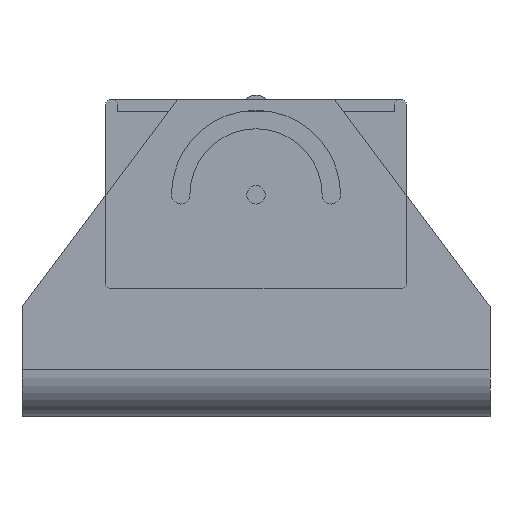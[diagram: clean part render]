
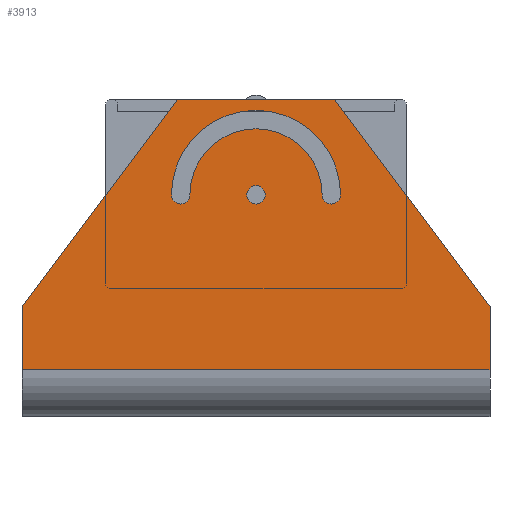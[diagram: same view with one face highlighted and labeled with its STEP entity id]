
A CAD part, left-side view. The second image highlights one B-rep face of the part: STEP entity #3913.
In plain terms, the highlighted planar face has unit normal (-1, 0, 0) as drawn and (0, 0, 1) by its records, which use the part's own axes.
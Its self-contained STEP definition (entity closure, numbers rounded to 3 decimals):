
#187 = EDGE_CURVE ( 'NONE', #621, #622, #2551, .T. ) ;
#559 = VERTEX_POINT ( 'NONE', #1871 ) ;
#569 = VERTEX_POINT ( 'NONE', #1881 ) ;
#570 = VERTEX_POINT ( 'NONE', #1882 ) ;
#572 = VERTEX_POINT ( 'NONE', #1884 ) ;
#573 = VERTEX_POINT ( 'NONE', #1885 ) ;
#621 = VERTEX_POINT ( 'NONE', #1933 ) ;
#622 = VERTEX_POINT ( 'NONE', #1934 ) ;
#786 = EDGE_CURVE ( 'NONE', #1110, #1111, #2766, .T. ) ;
#787 = EDGE_CURVE ( 'NONE', #1111, #1108, #2768, .T. ) ;
#791 = EDGE_CURVE ( 'NONE', #1108, #559, #2775, .T. ) ;
#792 = EDGE_CURVE ( 'NONE', #622, #621, #2777, .T. ) ;
#796 = EDGE_CURVE ( 'NONE', #572, #569, #2785, .T. ) ;
#799 = EDGE_CURVE ( 'NONE', #573, #572, #2791, .T. ) ;
#800 = EDGE_CURVE ( 'NONE', #559, #1109, #2792, .T. ) ;
#802 = EDGE_CURVE ( 'NONE', #1109, #1112, #2796, .T. ) ;
#803 = EDGE_CURVE ( 'NONE', #1112, #1110, #2798, .T. ) ;
#819 = EDGE_CURVE ( 'NONE', #569, #570, #2834, .T. ) ;
#821 = EDGE_CURVE ( 'NONE', #570, #573, #2838, .T. ) ;
#1073 = ORIENTED_EDGE ( 'NONE', *, *, #787, .F. ) ;
#1074 = ORIENTED_EDGE ( 'NONE', *, *, #786, .F. ) ;
#1075 = ORIENTED_EDGE ( 'NONE', *, *, #803, .F. ) ;
#1076 = ORIENTED_EDGE ( 'NONE', *, *, #802, .F. ) ;
#1077 = ORIENTED_EDGE ( 'NONE', *, *, #800, .F. ) ;
#1078 = ORIENTED_EDGE ( 'NONE', *, *, #791, .F. ) ;
#1079 = ORIENTED_EDGE ( 'NONE', *, *, #792, .F. ) ;
#1080 = ORIENTED_EDGE ( 'NONE', *, *, #187, .F. ) ;
#1081 = ORIENTED_EDGE ( 'NONE', *, *, #799, .F. ) ;
#1082 = ORIENTED_EDGE ( 'NONE', *, *, #821, .F. ) ;
#1083 = ORIENTED_EDGE ( 'NONE', *, *, #819, .F. ) ;
#1084 = ORIENTED_EDGE ( 'NONE', *, *, #796, .F. ) ;
#1104 = EDGE_LOOP ( 'NONE', ( #1073, #1074, #1075, #1076, #1077, #1078 ) ) ;
#1105 = EDGE_LOOP ( 'NONE', ( #1079, #1080 ) ) ;
#1106 = EDGE_LOOP ( 'NONE', ( #1081, #1082, #1083, #1084 ) ) ;
#1108 = VERTEX_POINT ( 'NONE', #3060 ) ;
#1109 = VERTEX_POINT ( 'NONE', #3061 ) ;
#1110 = VERTEX_POINT ( 'NONE', #3062 ) ;
#1111 = VERTEX_POINT ( 'NONE', #3063 ) ;
#1112 = VERTEX_POINT ( 'NONE', #3064 ) ;
#1474 = AXIS2_PLACEMENT_3D ( 'NONE', #1624, #1625, #1626 ) ;
#1624 = CARTESIAN_POINT ( 'NONE',  ( 0., 28.956, 0. ) ) ;
#1625 = DIRECTION ( 'NONE',  ( 0., 0., 1. ) ) ;
#1626 = DIRECTION ( 'NONE',  ( 1., 0., 0. ) ) ;
#1871 = CARTESIAN_POINT ( 'NONE',  ( -34.163, 12.7, 0. ) ) ;
#1881 = CARTESIAN_POINT ( 'NONE',  ( 9.652, 28.956, 0. ) ) ;
#1882 = CARTESIAN_POINT ( 'NONE',  ( 12.344, 28.956, 0. ) ) ;
#1884 = CARTESIAN_POINT ( 'NONE',  ( -9.652, 28.956, 0. ) ) ;
#1885 = CARTESIAN_POINT ( 'NONE',  ( -12.344, 28.956, 0. ) ) ;
#1933 = CARTESIAN_POINT ( 'NONE',  ( -1.346, 28.956, 0. ) ) ;
#1934 = CARTESIAN_POINT ( 'NONE',  ( 1.346, 28.956, 0. ) ) ;
#2372 = CARTESIAN_POINT ( 'NONE',  ( 34.163, 0., 0. ) ) ;
#2373 = DIRECTION ( 'NONE',  ( 0., -1., 0. ) ) ;
#2374 = CARTESIAN_POINT ( 'NONE',  ( -34.163, 3.429, 0. ) ) ;
#2375 = DIRECTION ( 'NONE',  ( -1., 0., 0. ) ) ;
#2384 = CARTESIAN_POINT ( 'NONE',  ( -34.163, 0., 0. ) ) ;
#2385 = DIRECTION ( 'NONE',  ( 0., 1., 0. ) ) ;
#2386 = CARTESIAN_POINT ( 'NONE',  ( 0., 28.956, 0. ) ) ;
#2387 = DIRECTION ( 'NONE',  ( 0., 0., 1. ) ) ;
#2388 = DIRECTION ( 'NONE',  ( 1., 0., 0. ) ) ;
#2395 = CARTESIAN_POINT ( 'NONE',  ( 0., 28.956, 0. ) ) ;
#2396 = DIRECTION ( 'NONE',  ( 0., 0., -1. ) ) ;
#2397 = DIRECTION ( 'NONE',  ( 1., 0., 0. ) ) ;
#2402 = CARTESIAN_POINT ( 'NONE',  ( -10.998, 28.956, 0. ) ) ;
#2403 = DIRECTION ( 'NONE',  ( 0., 0., 1. ) ) ;
#2404 = DIRECTION ( 'NONE',  ( 1., 0., 0. ) ) ;
#2405 = CARTESIAN_POINT ( 'NONE',  ( -34.163, 12.7, 0. ) ) ;
#2406 = DIRECTION ( 'NONE',  ( 0.601, 0.799, 0. ) ) ;
#2409 = CARTESIAN_POINT ( 'NONE',  ( -34.163, 42.926, 0. ) ) ;
#2410 = DIRECTION ( 'NONE',  ( 1., 0., 0. ) ) ;
#2411 = CARTESIAN_POINT ( 'NONE',  ( 11.43, 42.926, 0. ) ) ;
#2412 = DIRECTION ( 'NONE',  ( 0.601, -0.799, 0. ) ) ;
#2445 = CARTESIAN_POINT ( 'NONE',  ( 10.998, 28.956, 0. ) ) ;
#2446 = DIRECTION ( 'NONE',  ( 0., 0., 1. ) ) ;
#2447 = DIRECTION ( 'NONE',  ( 1., 0., 0. ) ) ;
#2450 = CARTESIAN_POINT ( 'NONE',  ( 0., 28.956, 0. ) ) ;
#2451 = DIRECTION ( 'NONE',  ( 0., 0., 1. ) ) ;
#2452 = DIRECTION ( 'NONE',  ( 1., 0., 0. ) ) ;
#2551 = CIRCLE ( 'NONE', #1474, 1.346 ) ;
#2760 = AXIS2_PLACEMENT_3D ( 'NONE', #2386, #2387, #2388 ) ;
#2761 = AXIS2_PLACEMENT_3D ( 'NONE', #2395, #2396, #2397 ) ;
#2762 = AXIS2_PLACEMENT_3D ( 'NONE', #2402, #2403, #2404 ) ;
#2766 = LINE ( 'NONE', #2372, #2767 ) ;
#2767 = VECTOR ( 'NONE', #2373, 1000. ) ;
#2768 = LINE ( 'NONE', #2374, #2769 ) ;
#2769 = VECTOR ( 'NONE', #2375, 1000. ) ;
#2775 = LINE ( 'NONE', #2384, #2776 ) ;
#2776 = VECTOR ( 'NONE', #2385, 1000. ) ;
#2777 = CIRCLE ( 'NONE', #2760, 1.346 ) ;
#2785 = CIRCLE ( 'NONE', #2761, 9.652 ) ;
#2791 = CIRCLE ( 'NONE', #2762, 1.346 ) ;
#2792 = LINE ( 'NONE', #2405, #2793 ) ;
#2793 = VECTOR ( 'NONE', #2406, 1000. ) ;
#2796 = LINE ( 'NONE', #2409, #2797 ) ;
#2797 = VECTOR ( 'NONE', #2410, 1000. ) ;
#2798 = LINE ( 'NONE', #2411, #2799 ) ;
#2799 = VECTOR ( 'NONE', #2412, 1000. ) ;
#2834 = CIRCLE ( 'NONE', #2892, 1.346 ) ;
#2838 = CIRCLE ( 'NONE', #2893, 12.344 ) ;
#2892 = AXIS2_PLACEMENT_3D ( 'NONE', #2445, #2446, #2447 ) ;
#2893 = AXIS2_PLACEMENT_3D ( 'NONE', #2450, #2451, #2452 ) ;
#2954 = AXIS2_PLACEMENT_3D ( 'NONE', #3317, #3318, #3319 ) ;
#3060 = CARTESIAN_POINT ( 'NONE',  ( -34.163, 3.429, 0. ) ) ;
#3061 = CARTESIAN_POINT ( 'NONE',  ( -11.43, 42.926, 0. ) ) ;
#3062 = CARTESIAN_POINT ( 'NONE',  ( 34.163, 12.7, 0. ) ) ;
#3063 = CARTESIAN_POINT ( 'NONE',  ( 34.163, 3.429, 0. ) ) ;
#3064 = CARTESIAN_POINT ( 'NONE',  ( 11.43, 42.926, 0. ) ) ;
#3316 = PLANE ( 'NONE',  #2954 ) ;
#3317 = CARTESIAN_POINT ( 'NONE',  ( -34.163, 0., 0. ) ) ;
#3318 = DIRECTION ( 'NONE',  ( 0., 0., -1. ) ) ;
#3319 = DIRECTION ( 'NONE',  ( -1., 0., 0. ) ) ;
#3558 = FACE_OUTER_BOUND ( 'NONE', #1104, .T. ) ;
#3559 = FACE_BOUND ( 'NONE', #1105, .T. ) ;
#3560 = FACE_BOUND ( 'NONE', #1106, .T. ) ;
#3913 = ADVANCED_FACE ( 'NONE', ( #3558, #3559, #3560 ), #3316, .F. ) ;
